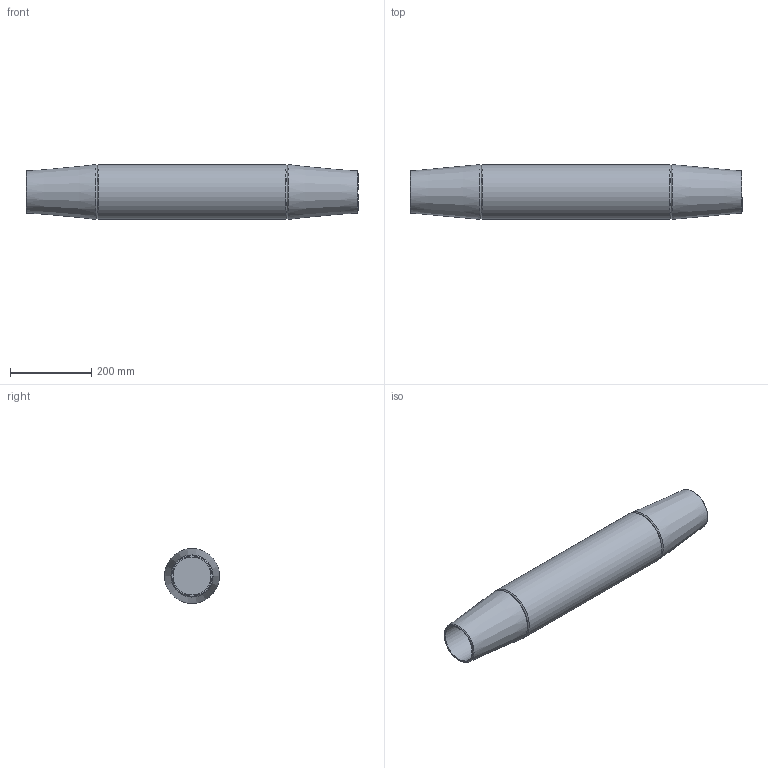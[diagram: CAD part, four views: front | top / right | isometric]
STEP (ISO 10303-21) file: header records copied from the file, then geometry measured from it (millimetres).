
FILE_DESCRIPTION(/* description */ (''),/* implementation_level */ '2;1');
FILE_NAME(/* name */ 'G:\Engineering\700 CAD\Internet-PX-1-step-igs-dxf\520-MUF-Arbeitsdateien\520-090-MUF.stp',/* time_stamp */ '2020-06-30T13:23:46+02:00',/* author */ ('schwarz'),/* organization */ (''),/* preprocessor_version */ 'ST-DEVELOPER v16.1',/* originating_system */ 'Autodesk Inventor 2016',/* authorisation */ '');
FILE_SCHEMA (('AUTOMOTIVE_DESIGN { 1 0 10303 214 3 1 1 }'));
Length unit declared in the file: centimetre
Products named in the file (1): Zusammenbau Muffe 520 090 Kunde
Bounding box: 816 x 135 x 135 mm (x, y, z)
Volume: 8811503.9 mm3; surface area: 422753.7 mm2
Topology: 1 solids, 1 shells, 15 faces, 25 edges, 14 vertices
Faces by surface type: cone 8, plane 4, cylinder 3
Full cylindrical faces by diameter (mm): 93 x2, 135 x1
Entity records: 347 total; most frequent: DIRECTION 60, CARTESIAN_POINT 44, AXIS2_PLACEMENT_3D 30, EDGE_LOOP 28, ORIENTED_EDGE 28, STYLED_ITEM 16, FACE_OUTER_BOUND 15, ADVANCED_FACE 15
